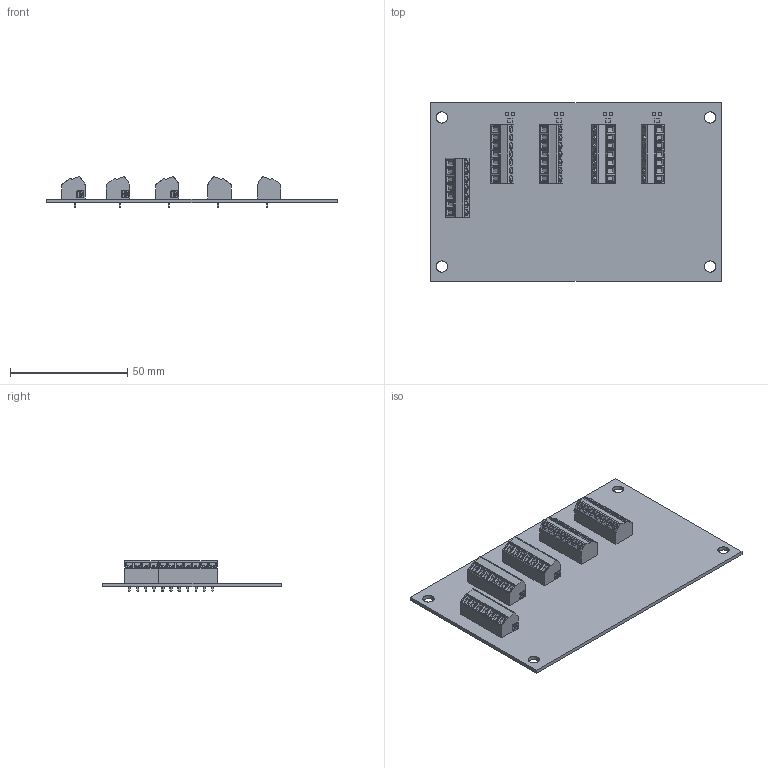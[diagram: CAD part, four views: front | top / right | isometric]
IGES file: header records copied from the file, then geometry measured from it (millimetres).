
Start section: SolidWorks IGES file using analytic representation for surfaces
Global section: file name: C:\0_Work\SolidWorks\HI 6010 Series\HI6010JB-SC1.IGS; native system: SolidWorks 2020; preprocessor: SolidWorks 2020; author: vach01; date: 210607.172415; units: inch
Bounding box: 123.83 x 76.2 x 13 mm (x, y, z)
Surface area: 27253.1 mm2 (no closed solid volume)
Topology: 0 solids, 0 shells, 1726 faces, 18530 edges, 18530 vertices
Faces by surface type: bspline 1108, revolution 618
